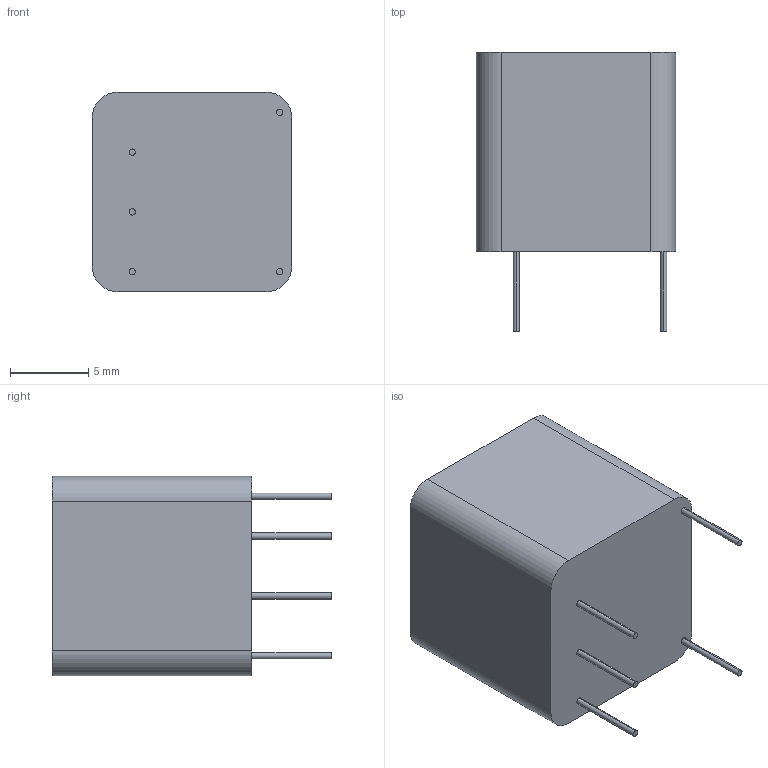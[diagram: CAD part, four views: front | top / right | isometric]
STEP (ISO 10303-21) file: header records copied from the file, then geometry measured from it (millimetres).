
FILE_DESCRIPTION (( 'STEP AP214' ), '1' );
FILE_NAME ('Q25-50.STEP', '2017-10-17T23:25:27', ( '' ), ( '' ), 'SwSTEP 2.0', 'SolidWorks 2017', '' );
FILE_SCHEMA (( 'AUTOMOTIVE_DESIGN' ));
Length unit declared in the file: inch
Products named in the file (1): Q25-50
Bounding box: 12.7 x 17.78 x 12.7 mm (x, y, z)
Volume: 2024.6 mm3; surface area: 961.6 mm2
Topology: 1 solids, 1 shells, 25 faces, 54 edges, 36 vertices
Faces by surface type: cylinder 14, plane 11
Entity records: 866 total; most frequent: DIRECTION 134, CARTESIAN_POINT 116, ORIENTED_EDGE 108, AXIS2_PLACEMENT_3D 54, EDGE_CURVE 54, VERTEX_POINT 36, EDGE_LOOP 30, CIRCLE 28
